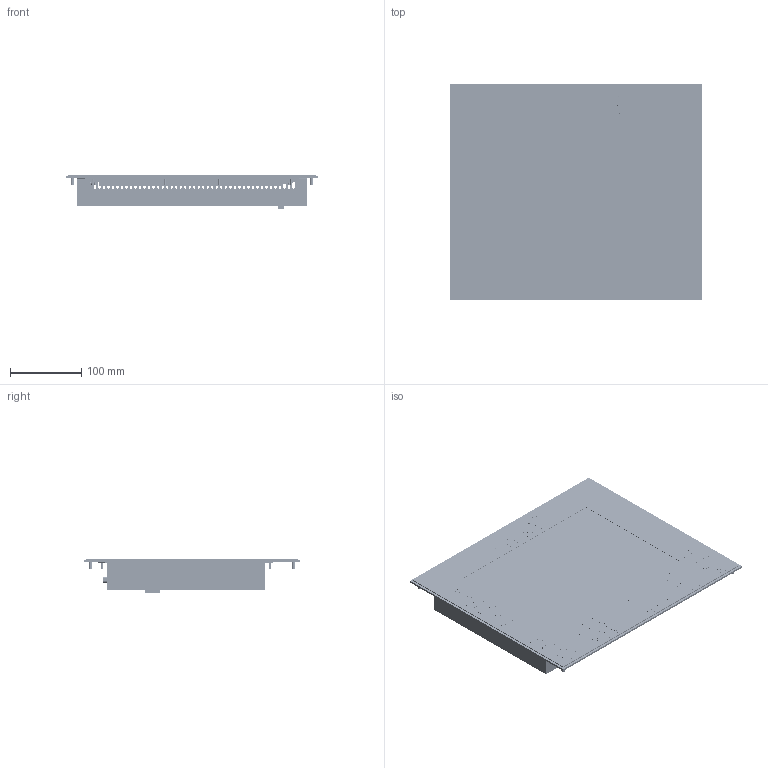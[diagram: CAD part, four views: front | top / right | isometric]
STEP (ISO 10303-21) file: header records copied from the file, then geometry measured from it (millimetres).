
FILE_DESCRIPTION(/* description */ ('','CAx-IF Rec.Pracs.---Representation and Presentation of Product Manufacturing Information (PMI)---4.0---2014-10-13'),/* implementation_level */ '2;1');
FILE_NAME(/* name */ 'XL200 Remote display, 12in - XL2.6-12-AU (105412).step',/* time_stamp */ '2025-02-13T15:47:16-06:00',/* author */ (''),/* organization */ (''),/* preprocessor_version */ 'ST-DEVELOPER v20',/* originating_system */ 'Autodesk Translation Framework v13.20.0.188',/* authorisation */ '');
FILE_SCHEMA (('AP242_MANAGED_MODEL_BASED_3D_ENGINEERING_MIM_LF { 1 0 10303 442 1 1 4 }'));
Products named in the file (70): XL200 Remote display; 7995-1; 7995-L; 7995; 8MAD3389_L; 7996_Overlay; 7996_template; Key-function_template; Key-function_template (1); Key-function_template (2); Key-function_template (3); Key-function_template (4); Key-function_template (5); Key-function_template (6); Key-function_template (7); Key-function_template (8); Key-function_template (9); Key-function_template (10); Key-function_template (11); Key-function_template (12); Key-function_template (13); Square-function_template; Square-function_template (1); Square-function_template (2); Square-function_template (3); Square-function_template (4); Square-function_template (5); Square-function_template (6); Square-function_template (7); Square-function_template (8); Square-function_template (9); Square-function_template (10); Square-function_template (11); Square-function_template (12); Square-function_template (13); Square-function_template (14); Square-function_template (15); Square-function_template (16); Square-function_template (17); Square-function_template (18)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
Assembly tree (98 placements, depth 4):
  XL200 Remote display
    7995-1
      7995-L
        7995
        8MAD3389_L
      7996_Overlay
        7996_template
        Key-function_template
        Key-function_template (1)
        Key-function_template (2)
        Key-function_template (3)
        Key-function_template (4)
        Key-function_template (5)
        Key-function_template (6)
        Key-function_template (7)
        Key-function_template (8)
        Key-function_template (9)
        Key-function_template (10)
        Key-function_template (11)
        Key-function_template (12)
        Key-function_template (13)
        Square-function_template
        Square-function_template (1)
        Square-function_template (2)
        Square-function_template (3)
        Square-function_template (4)
        Square-function_template (5)
        Square-function_template (6)
        Square-function_template (7)
        Square-function_template (8)
        Square-function_template (9)
        Square-function_template (10)
        Square-function_template (11)
        Square-function_template (12)
        Square-function_template (13)
        Square-function_template (14)
        Square-function_template (15)
        Square-function_template (16)
        Square-function_template (17)
        Square-function_template (18)
        Square-function_template (19)
        Square-function_template (20)
        Square-function_template (21)
        Square-function_template (22)
        Square-function_template (23)
        FID-554_12.1
        AMSLOGO_new
      Optrex_Dispay_12.1
      8mAD3389
      4-40_1x2_phs  x2
      #284386  x6
      #284387  x8
      10414  x2
      #284385  x4
      Component53
    5386D-1
      5386D
      PS_2_Molex_87123_series  x2
      74320-900
      DF11G-14DS-2V  x2
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Bounding box: 355.6 x 304.8 x 47.86 mm (x, y, z)
Volume: 941343.1 mm3; surface area: 721992.5 mm2
Topology: 4 solids, 16 shells, 7664 faces, 20890 edges, 13686 vertices
Faces by surface type: plane 5253, bspline 1138, cylinder 1069, cone 184, torus 20
Full cylindrical faces by diameter (mm): 0.61 x48, 0.864 x24, 0.889 x10, 0.9 x12, 1.016 x4, 1.041 x12, 1.092 x24, 1.27 x1, 1.3 x4, 1.524 x2, 1.575 x2, 1.778 x2, 1.93 x4, 2.438 x2, 2.474 x48, 2.5 x1, 2.54 x2, 2.779 x2, 2.845 x4, 2.946 x4, 3 x2, 3.048 x11, 3.051 x2, 3.175 x24, 3.2 x2, 3.251 x8, 3.488 x36, 3.5 x4, 4.763 x6, 5.08 x4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
Entity records: 284615 total; most frequent: CARTESIAN_POINT 90754, ORIENTED_EDGE 41780, DIRECTION 34513, EDGE_CURVE 20890, LINE 16067, VECTOR 16067, VERTEX_POINT 13686, AXIS2_PLACEMENT_3D 9223
